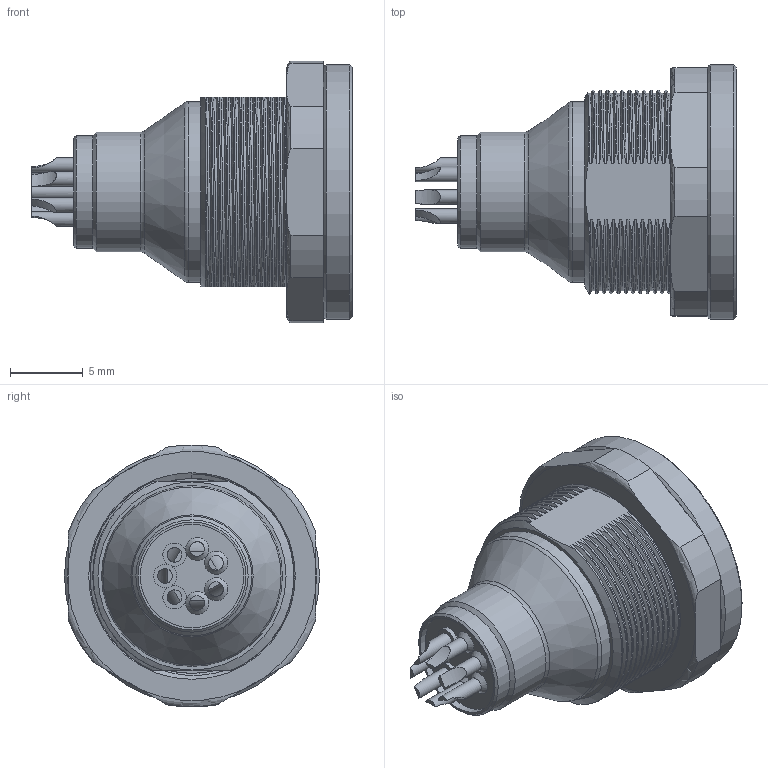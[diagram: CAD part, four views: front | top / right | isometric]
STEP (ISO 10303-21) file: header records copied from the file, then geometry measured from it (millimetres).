
FILE_DESCRIPTION(/* description */ (''),/* implementation_level */ '2;1');
FILE_NAME(/* name */ '09 4927 025 07 001_00-Flanschstecker.stp',/* time_stamp */ '2017-10-16T11:46:27+02:00',/* author */ (''),/* organization */ (''),/* preprocessor_version */ 'ST-DEVELOPER v16',/* originating_system */ 'SIEMENS PLM Software NX 11.0',/* authorisation */ '');
FILE_SCHEMA (('AUTOMOTIVE_DESIGN { 1 0 10303 214 3 1 1 1 }'));
Products named in the file (1): jbyc17348737winq
Bounding box: 22 x 17.5 x 17.96 mm (x, y, z)
Volume: 1441.3 mm3; surface area: 2401.4 mm2
Topology: 2 solids, 2 shells, 341 faces, 891 edges, 579 vertices
Faces by surface type: cylinder 130, bspline 85, plane 73, cone 29, torus 24
Full cylindrical faces by diameter (mm): 0.5 x7, 1 x7, 6.1 x1, 7.1 x1, 7.4 x3, 7.7 x1, 8.2 x1, 12.3 x2, 12.4 x1, 14 x1, 14.2 x1, 16.4 x1, 17.5 x1
Entity records: 45511 total; most frequent: CARTESIAN_POINT 38296, ORIENTED_EDGE 1590, DIRECTION 1174, EDGE_CURVE 795, VERTEX_POINT 551, AXIS2_PLACEMENT_3D 452, EDGE_LOOP 436, ADVANCED_FACE 341
